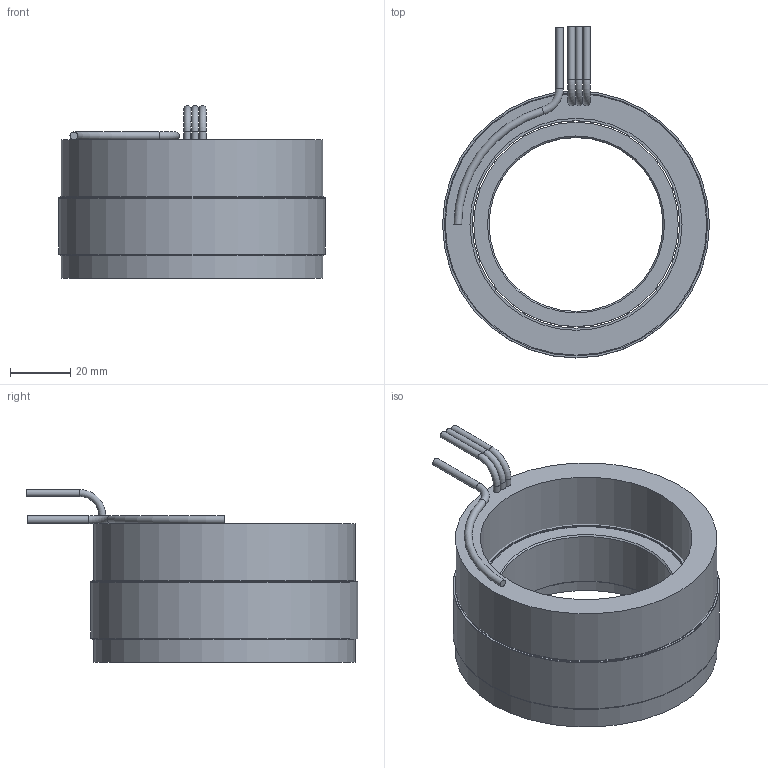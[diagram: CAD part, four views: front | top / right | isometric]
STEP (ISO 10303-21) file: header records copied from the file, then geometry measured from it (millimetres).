
FILE_DESCRIPTION (( 'STEP AP214' ), '1' );
FILE_NAME ('6100394-01.STEP', '2020-12-15T03:31:43', ( '' ), ( '' ), 'SwSTEP 2.0', 'SolidWorks 2016', '' );
FILE_SCHEMA (( 'AUTOMOTIVE_DESIGN' ));
Length unit declared in the file: inch
Products named in the file (10): 4500560-XX_4500560-01; 6100394-01; 4400103-00; 4150180-XX_4150180-01; 4450191-XX_4450191-01; 4250382-XX_4250382-01; 4600567-00; COMP4500560-XX(COIL)_COMP4500560-01(COIL)
Assembly tree (10 placements, depth 4):
  6100394-01
    4500560-XX_4500560-01
      4450191-XX_4450191-01
        4450191-XX_4450191-01
        4400103-00
        4400103-00
        4600567-00  x2
      COMP4500560-XX(COIL)_COMP4500560-01(COIL)
    4250382-XX_4250382-01
      4150180-XX_4150180-01
Bounding box: 88.9 x 110.49 x 57.53 mm (x, y, z)
Volume: 162455.7 mm3; surface area: 71376.9 mm2
Topology: 8 solids, 8 shells, 47 faces, 74 edges, 46 vertices
Faces by surface type: cylinder 21, plane 19, torus 5, cone 2
Full cylindrical faces by diameter (mm): 2.286 x6, 2.54 x1, 57.912 x1, 68.072 x1, 69.088 x5, 70.612 x1, 87.122 x1, 87.63 x2, 88.9 x3
Entity records: 1305 total; most frequent: DIRECTION 202, CARTESIAN_POINT 143, AXIS2_PLACEMENT_3D 101, EDGE_LOOP 84, ORIENTED_EDGE 84, FACE_OUTER_BOUND 67, ADVANCED_FACE 43, EDGE_CURVE 42
